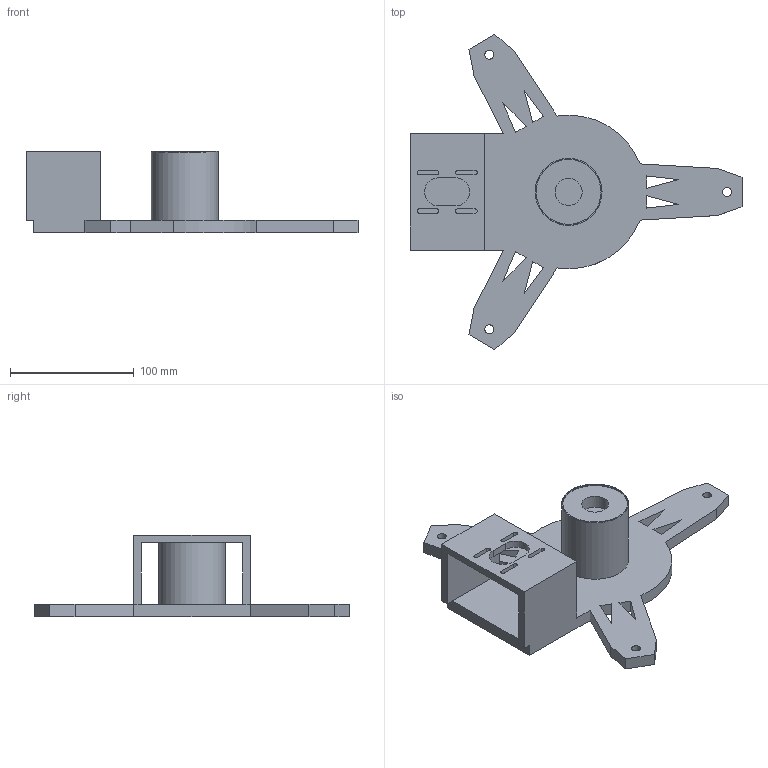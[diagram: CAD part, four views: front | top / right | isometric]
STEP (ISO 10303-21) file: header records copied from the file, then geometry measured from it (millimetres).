
FILE_DESCRIPTION(('FreeCAD Model'),'2;1');
FILE_NAME('Open CASCADE Shape Model','2026-08-28T20:43:36',('Author'),( ''),'Open CASCADE STEP processor 7.8','FreeCAD','Unknown');
FILE_SCHEMA(('AUTOMOTIVE_DESIGN { 1 0 10303 214 1 1 1 1 }'));
Length unit declared in the file: millimetre
Products named in the file (1): BASE_three_leg_frame_51107_608_motor_mount
Bounding box: 268 x 254.49 x 66 mm (x, y, z)
Volume: 452174.8 mm3; surface area: 102234.7 mm2
Topology: 1 solids, 1 shells, 77 faces, 230 edges, 156 vertices
Faces by surface type: plane 59, cylinder 18
Full cylindrical faces by diameter (mm): 7.2 x3, 21.9 x1, 52.4 x1, 54 x1
Entity records: 2664 total; most frequent: CARTESIAN_POINT 464, ORIENTED_EDGE 460, DIRECTION 432, EDGE_CURVE 230, LINE 184, VECTOR 184, VERTEX_POINT 156, AXIS2_PLACEMENT_3D 124
